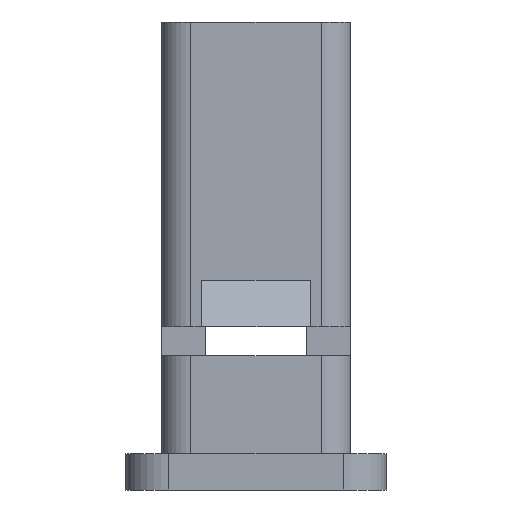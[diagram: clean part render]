
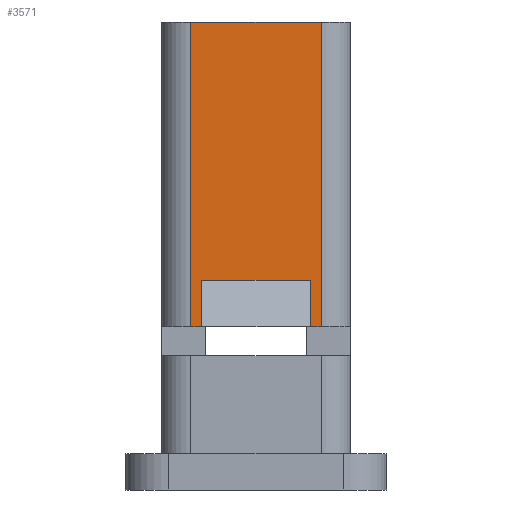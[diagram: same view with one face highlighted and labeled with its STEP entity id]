
A CAD part, left-side view. The second image highlights one B-rep face of the part: STEP entity #3571.
In plain terms, the highlighted planar face has unit normal (-1, 0, 0).
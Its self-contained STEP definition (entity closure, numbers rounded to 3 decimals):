
#392 = PLANE('',#393);
#393 = AXIS2_PLACEMENT_3D('',#394,#395,#396);
#394 = CARTESIAN_POINT('',(66.9,61.91,6.8));
#395 = DIRECTION('',(0.,-1.,0.));
#396 = DIRECTION('',(1.,0.,0.));
#581 = CYLINDRICAL_SURFACE('',#582,0.8);
#582 = AXIS2_PLACEMENT_3D('',#583,#584,#585);
#583 = CARTESIAN_POINT('',(60.2,61.91,5.));
#584 = DIRECTION('',(0.,-1.,0.));
#585 = DIRECTION('',(1.,0.,0.));
#608 = PLANE('',#609);
#609 = AXIS2_PLACEMENT_3D('',#610,#611,#612);
#610 = CARTESIAN_POINT('',(57.4,70.3,3.7));
#611 = DIRECTION('',(-0.,1.,0.));
#612 = DIRECTION('',(0.,0.,1.));
#1111 = CYLINDRICAL_SURFACE('',#1112,0.8);
#1112 = AXIS2_PLACEMENT_3D('',#1113,#1114,#1115);
#1113 = CARTESIAN_POINT('',(60.2,61.91,8.6));
#1114 = DIRECTION('',(0.,-1.,0.));
#1115 = DIRECTION('',(1.,0.,0.));
#1476 = EDGE_CURVE('',#1477,#1479,#1481,.T.);
#1477 = VERTEX_POINT('',#1478);
#1478 = CARTESIAN_POINT('',(59.4,61.91,5.));
#1479 = VERTEX_POINT('',#1480);
#1480 = CARTESIAN_POINT('',(59.4,61.91,8.6));
#1481 = SURFACE_CURVE('',#1482,(#1486,#1493),.PCURVE_S1.);
#1482 = LINE('',#1483,#1484);
#1483 = CARTESIAN_POINT('',(59.4,61.91,6.8));
#1484 = VECTOR('',#1485,1.);
#1485 = DIRECTION('',(0.,0.,1.));
#1486 = PCURVE('',#392,#1487);
#1487 = DEFINITIONAL_REPRESENTATION('',(#1488),#1492);
#1488 = LINE('',#1489,#1490);
#1489 = CARTESIAN_POINT('',(-7.5,0.));
#1490 = VECTOR('',#1491,1.);
#1491 = DIRECTION('',(0.,1.));
#1492 = ( GEOMETRIC_REPRESENTATION_CONTEXT(2) 
PARAMETRIC_REPRESENTATION_CONTEXT() REPRESENTATION_CONTEXT('2D SPACE',''
  ) );
#1493 = PCURVE('',#1494,#1499);
#1494 = PLANE('',#1495);
#1495 = AXIS2_PLACEMENT_3D('',#1496,#1497,#1498);
#1496 = CARTESIAN_POINT('',(59.4,61.91,5.));
#1497 = DIRECTION('',(1.,0.,-0.));
#1498 = DIRECTION('',(0.,0.,1.));
#1499 = DEFINITIONAL_REPRESENTATION('',(#1500),#1504);
#1500 = LINE('',#1501,#1502);
#1501 = CARTESIAN_POINT('',(1.8,0.));
#1502 = VECTOR('',#1503,1.);
#1503 = DIRECTION('',(1.,0.));
#1504 = ( GEOMETRIC_REPRESENTATION_CONTEXT(2) 
PARAMETRIC_REPRESENTATION_CONTEXT() REPRESENTATION_CONTEXT('2D SPACE',''
  ) );
#1740 = EDGE_CURVE('',#1477,#1741,#1743,.T.);
#1741 = VERTEX_POINT('',#1742);
#1742 = CARTESIAN_POINT('',(59.4,70.3,5.));
#1743 = SURFACE_CURVE('',#1744,(#1748,#1755),.PCURVE_S1.);
#1744 = LINE('',#1745,#1746);
#1745 = CARTESIAN_POINT('',(59.4,61.91,5.));
#1746 = VECTOR('',#1747,1.);
#1747 = DIRECTION('',(-0.,1.,-0.));
#1748 = PCURVE('',#581,#1749);
#1749 = DEFINITIONAL_REPRESENTATION('',(#1750),#1754);
#1750 = LINE('',#1751,#1752);
#1751 = CARTESIAN_POINT('',(3.142,0.));
#1752 = VECTOR('',#1753,1.);
#1753 = DIRECTION('',(0.,-1.));
#1754 = ( GEOMETRIC_REPRESENTATION_CONTEXT(2) 
PARAMETRIC_REPRESENTATION_CONTEXT() REPRESENTATION_CONTEXT('2D SPACE',''
  ) );
#1755 = PCURVE('',#1494,#1756);
#1756 = DEFINITIONAL_REPRESENTATION('',(#1757),#1761);
#1757 = LINE('',#1758,#1759);
#1758 = CARTESIAN_POINT('',(0.,0.));
#1759 = VECTOR('',#1760,1.);
#1760 = DIRECTION('',(0.,-1.));
#1761 = ( GEOMETRIC_REPRESENTATION_CONTEXT(2) 
PARAMETRIC_REPRESENTATION_CONTEXT() REPRESENTATION_CONTEXT('2D SPACE',''
  ) );
#1816 = EDGE_CURVE('',#1741,#1817,#1819,.T.);
#1817 = VERTEX_POINT('',#1818);
#1818 = CARTESIAN_POINT('',(59.4,70.3,5.3));
#1819 = SURFACE_CURVE('',#1820,(#1824,#1831),.PCURVE_S1.);
#1820 = LINE('',#1821,#1822);
#1821 = CARTESIAN_POINT('',(59.4,70.3,4.35));
#1822 = VECTOR('',#1823,1.);
#1823 = DIRECTION('',(0.,0.,1.));
#1824 = PCURVE('',#608,#1825);
#1825 = DEFINITIONAL_REPRESENTATION('',(#1826),#1830);
#1826 = LINE('',#1827,#1828);
#1827 = CARTESIAN_POINT('',(0.65,2.));
#1828 = VECTOR('',#1829,1.);
#1829 = DIRECTION('',(1.,0.));
#1830 = ( GEOMETRIC_REPRESENTATION_CONTEXT(2) 
PARAMETRIC_REPRESENTATION_CONTEXT() REPRESENTATION_CONTEXT('2D SPACE',''
  ) );
#1831 = PCURVE('',#1494,#1832);
#1832 = DEFINITIONAL_REPRESENTATION('',(#1833),#1836);
#1833 = B_SPLINE_CURVE_WITH_KNOTS('',1,(#1834,#1835),.UNSPECIFIED.,.F.,
  .F.,(2,2),(0.65,4.25),.PIECEWISE_BEZIER_KNOTS.);
#1834 = CARTESIAN_POINT('',(0.,-8.39));
#1835 = CARTESIAN_POINT('',(3.6,-8.39));
#1836 = ( GEOMETRIC_REPRESENTATION_CONTEXT(2) 
PARAMETRIC_REPRESENTATION_CONTEXT() REPRESENTATION_CONTEXT('2D SPACE',''
  ) );
#1854 = PLANE('',#1855);
#1855 = AXIS2_PLACEMENT_3D('',#1856,#1857,#1858);
#1856 = CARTESIAN_POINT('',(59.278,69.678,5.3));
#1857 = DIRECTION('',(0.,-0.,-1.));
#1858 = DIRECTION('',(-1.,0.,0.));
#1882 = PLANE('',#1883);
#1883 = AXIS2_PLACEMENT_3D('',#1884,#1885,#1886);
#1884 = CARTESIAN_POINT('',(59.6,68.7,5.3));
#1885 = DIRECTION('',(-0.848,-0.53,-0.));
#1886 = DIRECTION('',(-0.53,0.848,0.));
#1895 = VERTEX_POINT('',#1896);
#1896 = CARTESIAN_POINT('',(59.4,70.3,8.3));
#1910 = PLANE('',#1911);
#1911 = AXIS2_PLACEMENT_3D('',#1912,#1913,#1914);
#1912 = CARTESIAN_POINT('',(59.278,69.678,8.3));
#1913 = DIRECTION('',(0.,-0.,-1.));
#1914 = DIRECTION('',(-1.,0.,0.));
#1922 = EDGE_CURVE('',#1895,#1923,#1925,.T.);
#1923 = VERTEX_POINT('',#1924);
#1924 = CARTESIAN_POINT('',(59.4,70.3,8.6));
#1925 = SURFACE_CURVE('',#1926,(#1930,#1937),.PCURVE_S1.);
#1926 = LINE('',#1927,#1928);
#1927 = CARTESIAN_POINT('',(59.4,70.3,4.35));
#1928 = VECTOR('',#1929,1.);
#1929 = DIRECTION('',(0.,0.,1.));
#1930 = PCURVE('',#608,#1931);
#1931 = DEFINITIONAL_REPRESENTATION('',(#1932),#1936);
#1932 = LINE('',#1933,#1934);
#1933 = CARTESIAN_POINT('',(0.65,2.));
#1934 = VECTOR('',#1935,1.);
#1935 = DIRECTION('',(1.,0.));
#1936 = ( GEOMETRIC_REPRESENTATION_CONTEXT(2) 
PARAMETRIC_REPRESENTATION_CONTEXT() REPRESENTATION_CONTEXT('2D SPACE',''
  ) );
#1937 = PCURVE('',#1494,#1938);
#1938 = DEFINITIONAL_REPRESENTATION('',(#1939),#1942);
#1939 = B_SPLINE_CURVE_WITH_KNOTS('',1,(#1940,#1941),.UNSPECIFIED.,.F.,
  .F.,(2,2),(0.65,4.25),.PIECEWISE_BEZIER_KNOTS.);
#1940 = CARTESIAN_POINT('',(0.,-8.39));
#1941 = CARTESIAN_POINT('',(3.6,-8.39));
#1942 = ( GEOMETRIC_REPRESENTATION_CONTEXT(2) 
PARAMETRIC_REPRESENTATION_CONTEXT() REPRESENTATION_CONTEXT('2D SPACE',''
  ) );
#3372 = EDGE_CURVE('',#1479,#1923,#3373,.T.);
#3373 = SURFACE_CURVE('',#3374,(#3378,#3385),.PCURVE_S1.);
#3374 = LINE('',#3375,#3376);
#3375 = CARTESIAN_POINT('',(59.4,61.91,8.6));
#3376 = VECTOR('',#3377,1.);
#3377 = DIRECTION('',(-0.,1.,-0.));
#3378 = PCURVE('',#1111,#3379);
#3379 = DEFINITIONAL_REPRESENTATION('',(#3380),#3384);
#3380 = LINE('',#3381,#3382);
#3381 = CARTESIAN_POINT('',(3.142,0.));
#3382 = VECTOR('',#3383,1.);
#3383 = DIRECTION('',(0.,-1.));
#3384 = ( GEOMETRIC_REPRESENTATION_CONTEXT(2) 
PARAMETRIC_REPRESENTATION_CONTEXT() REPRESENTATION_CONTEXT('2D SPACE',''
  ) );
#3385 = PCURVE('',#1494,#3386);
#3386 = DEFINITIONAL_REPRESENTATION('',(#3387),#3391);
#3387 = LINE('',#3388,#3389);
#3388 = CARTESIAN_POINT('',(3.6,0.));
#3389 = VECTOR('',#3390,1.);
#3390 = DIRECTION('',(0.,-1.));
#3391 = ( GEOMETRIC_REPRESENTATION_CONTEXT(2) 
PARAMETRIC_REPRESENTATION_CONTEXT() REPRESENTATION_CONTEXT('2D SPACE',''
  ) );
#3571 = ADVANCED_FACE('',(#3572),#1494,.F.);
#3572 = FACE_BOUND('',#3573,.F.);
#3573 = EDGE_LOOP('',(#3574,#3575,#3576,#3577,#3598,#3619,#3638,#3639));
#3574 = ORIENTED_EDGE('',*,*,#1476,.F.);
#3575 = ORIENTED_EDGE('',*,*,#1740,.T.);
#3576 = ORIENTED_EDGE('',*,*,#1816,.T.);
#3577 = ORIENTED_EDGE('',*,*,#3578,.F.);
#3578 = EDGE_CURVE('',#3579,#1817,#3581,.T.);
#3579 = VERTEX_POINT('',#3580);
#3580 = CARTESIAN_POINT('',(59.4,69.02,5.3));
#3581 = SURFACE_CURVE('',#3582,(#3586,#3592),.PCURVE_S1.);
#3582 = LINE('',#3583,#3584);
#3583 = CARTESIAN_POINT('',(59.4,65.794,5.3));
#3584 = VECTOR('',#3585,1.);
#3585 = DIRECTION('',(-0.,1.,-0.));
#3586 = PCURVE('',#1494,#3587);
#3587 = DEFINITIONAL_REPRESENTATION('',(#3588),#3591);
#3588 = B_SPLINE_CURVE_WITH_KNOTS('',1,(#3589,#3590),.UNSPECIFIED.,.F.,
  .F.,(2,2),(2.906,4.506),.PIECEWISE_BEZIER_KNOTS.);
#3589 = CARTESIAN_POINT('',(0.3,-6.79));
#3590 = CARTESIAN_POINT('',(0.3,-8.39));
#3591 = ( GEOMETRIC_REPRESENTATION_CONTEXT(2) 
PARAMETRIC_REPRESENTATION_CONTEXT() REPRESENTATION_CONTEXT('2D SPACE',''
  ) );
#3592 = PCURVE('',#1854,#3593);
#3593 = DEFINITIONAL_REPRESENTATION('',(#3594),#3597);
#3594 = B_SPLINE_CURVE_WITH_KNOTS('',1,(#3595,#3596),.UNSPECIFIED.,.F.,
  .F.,(2,2),(2.906,4.506),.PIECEWISE_BEZIER_KNOTS.);
#3595 = CARTESIAN_POINT('',(-0.122,-0.978));
#3596 = CARTESIAN_POINT('',(-0.122,0.622));
#3597 = ( GEOMETRIC_REPRESENTATION_CONTEXT(2) 
PARAMETRIC_REPRESENTATION_CONTEXT() REPRESENTATION_CONTEXT('2D SPACE',''
  ) );
#3598 = ORIENTED_EDGE('',*,*,#3599,.F.);
#3599 = EDGE_CURVE('',#3600,#3579,#3602,.T.);
#3600 = VERTEX_POINT('',#3601);
#3601 = CARTESIAN_POINT('',(59.4,69.02,8.3));
#3602 = SURFACE_CURVE('',#3603,(#3607,#3613),.PCURVE_S1.);
#3603 = LINE('',#3604,#3605);
#3604 = CARTESIAN_POINT('',(59.4,69.02,5.15));
#3605 = VECTOR('',#3606,1.);
#3606 = DIRECTION('',(-0.,0.,-1.));
#3607 = PCURVE('',#1494,#3608);
#3608 = DEFINITIONAL_REPRESENTATION('',(#3609),#3612);
#3609 = B_SPLINE_CURVE_WITH_KNOTS('',1,(#3610,#3611),.UNSPECIFIED.,.F.,
  .F.,(2,2),(-3.15,-0.15),.PIECEWISE_BEZIER_KNOTS.);
#3610 = CARTESIAN_POINT('',(3.3,-7.11));
#3611 = CARTESIAN_POINT('',(0.3,-7.11));
#3612 = ( GEOMETRIC_REPRESENTATION_CONTEXT(2) 
PARAMETRIC_REPRESENTATION_CONTEXT() REPRESENTATION_CONTEXT('2D SPACE',''
  ) );
#3613 = PCURVE('',#1882,#3614);
#3614 = DEFINITIONAL_REPRESENTATION('',(#3615),#3618);
#3615 = B_SPLINE_CURVE_WITH_KNOTS('',1,(#3616,#3617),.UNSPECIFIED.,.F.,
  .F.,(2,2),(-3.15,-0.15),.PIECEWISE_BEZIER_KNOTS.);
#3616 = CARTESIAN_POINT('',(0.377,-3.));
#3617 = CARTESIAN_POINT('',(0.377,0.));
#3618 = ( GEOMETRIC_REPRESENTATION_CONTEXT(2) 
PARAMETRIC_REPRESENTATION_CONTEXT() REPRESENTATION_CONTEXT('2D SPACE',''
  ) );
#3619 = ORIENTED_EDGE('',*,*,#3620,.T.);
#3620 = EDGE_CURVE('',#3600,#1895,#3621,.T.);
#3621 = SURFACE_CURVE('',#3622,(#3626,#3632),.PCURVE_S1.);
#3622 = LINE('',#3623,#3624);
#3623 = CARTESIAN_POINT('',(59.4,65.794,8.3));
#3624 = VECTOR('',#3625,1.);
#3625 = DIRECTION('',(-0.,1.,-0.));
#3626 = PCURVE('',#1494,#3627);
#3627 = DEFINITIONAL_REPRESENTATION('',(#3628),#3631);
#3628 = B_SPLINE_CURVE_WITH_KNOTS('',1,(#3629,#3630),.UNSPECIFIED.,.F.,
  .F.,(2,2),(2.906,4.506),.PIECEWISE_BEZIER_KNOTS.);
#3629 = CARTESIAN_POINT('',(3.3,-6.79));
#3630 = CARTESIAN_POINT('',(3.3,-8.39));
#3631 = ( GEOMETRIC_REPRESENTATION_CONTEXT(2) 
PARAMETRIC_REPRESENTATION_CONTEXT() REPRESENTATION_CONTEXT('2D SPACE',''
  ) );
#3632 = PCURVE('',#1910,#3633);
#3633 = DEFINITIONAL_REPRESENTATION('',(#3634),#3637);
#3634 = B_SPLINE_CURVE_WITH_KNOTS('',1,(#3635,#3636),.UNSPECIFIED.,.F.,
  .F.,(2,2),(2.906,4.506),.PIECEWISE_BEZIER_KNOTS.);
#3635 = CARTESIAN_POINT('',(-0.122,-0.978));
#3636 = CARTESIAN_POINT('',(-0.122,0.622));
#3637 = ( GEOMETRIC_REPRESENTATION_CONTEXT(2) 
PARAMETRIC_REPRESENTATION_CONTEXT() REPRESENTATION_CONTEXT('2D SPACE',''
  ) );
#3638 = ORIENTED_EDGE('',*,*,#1922,.T.);
#3639 = ORIENTED_EDGE('',*,*,#3372,.F.);
